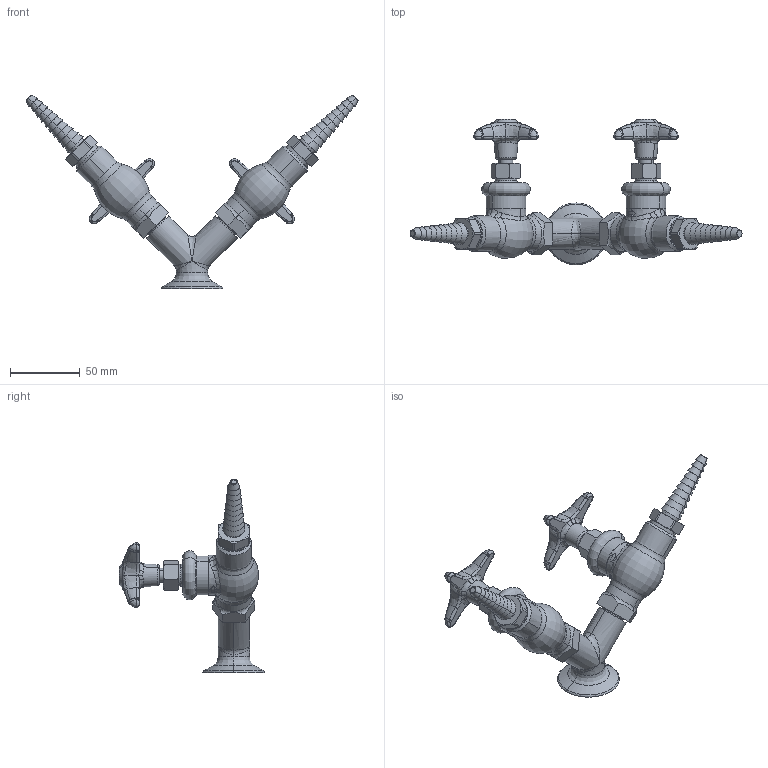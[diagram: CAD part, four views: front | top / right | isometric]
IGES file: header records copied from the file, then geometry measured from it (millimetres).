
Start section:  PTC IGES file: LGN1-A11B-60.igs
Global section: file name: LGN1-A11B-60.igs; native system: Creo Parametric by PTC Inc.; preprocessor: 2014500; author: usch_engrender; organization: Unknown; date: 20151216.150126; units: inch
Bounding box: 238.57 x 104.5 x 138.97 mm (x, y, z)
Volume: 197624.7 mm3; surface area: 56125.7 mm2
Topology: 1 solids, 8 shells, 773 faces, 1776 edges, 1060 vertices
Faces by surface type: bspline 453, revolution 320
